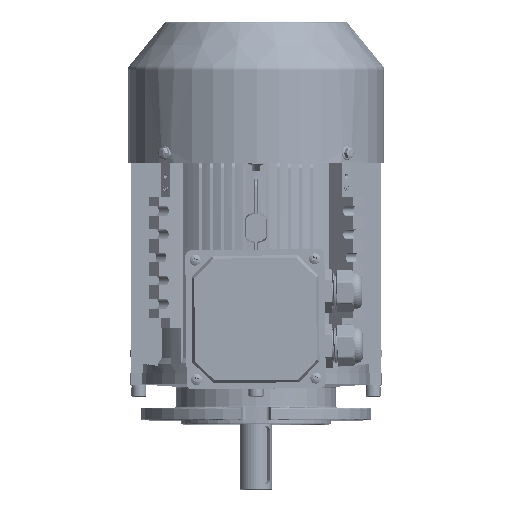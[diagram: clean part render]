
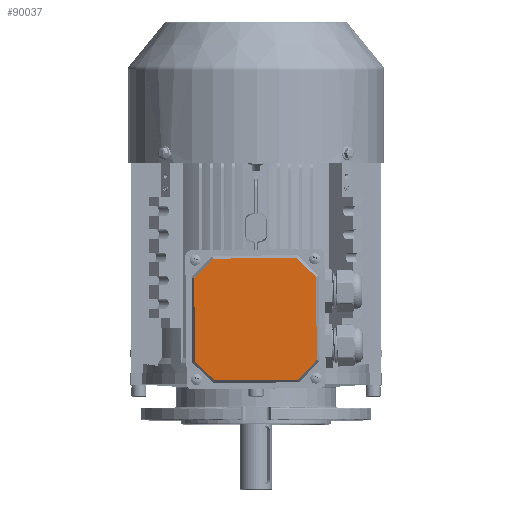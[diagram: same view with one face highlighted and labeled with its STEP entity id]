
A CAD part, top view. The second image highlights one B-rep face of the part: STEP entity #90037.
In plain terms, the highlighted planar face has unit normal (0, 0, 1) as drawn and (0, 0, -1) by its records, which use the part's own axes.
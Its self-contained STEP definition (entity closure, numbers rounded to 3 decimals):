
#714 = VECTOR ( 'NONE', #50435, 1000. ) ;
#1501 = VECTOR ( 'NONE', #7991, 1000. ) ;
#1673 = DIRECTION ( 'NONE',  ( -1., 0., 0. ) ) ;
#3650 = CARTESIAN_POINT ( 'NONE',  ( 0., 0., -4. ) ) ;
#4479 = CARTESIAN_POINT ( 'NONE',  ( -52.536, -35.903, -4. ) ) ;
#7766 = DIRECTION ( 'NONE',  ( 1., 0., 0. ) ) ;
#7991 = DIRECTION ( 'NONE',  ( -0.707, 0.707, 0. ) ) ;
#8569 = VERTEX_POINT ( 'NONE', #57982 ) ;
#9394 = CARTESIAN_POINT ( 'NONE',  ( 52.536, 0., -4. ) ) ;
#11584 = CARTESIAN_POINT ( 'NONE',  ( -52.536, 35.903, -4. ) ) ;
#12261 = DIRECTION ( 'NONE',  ( 1., 0., 0. ) ) ;
#14995 = LINE ( 'NONE', #77813, #57667 ) ;
#19259 = EDGE_CURVE ( 'NONE', #110631, #58912, #32817, .T. ) ;
#21995 = ORIENTED_EDGE ( 'NONE', *, *, #60154, .F. ) ;
#23304 = VECTOR ( 'NONE', #85630, 1000. ) ;
#23455 = LINE ( 'NONE', #84534, #714 ) ;
#25932 = VERTEX_POINT ( 'NONE', #85594 ) ;
#26577 = DIRECTION ( 'NONE',  ( 0.707, 0.707, 0. ) ) ;
#26592 = DIRECTION ( 'NONE',  ( 0., 1., 0. ) ) ;
#28520 = EDGE_CURVE ( 'NONE', #100194, #25932, #44242, .T. ) ;
#28683 = LINE ( 'NONE', #68387, #23304 ) ;
#31680 = VERTEX_POINT ( 'NONE', #4479 ) ;
#31827 = LINE ( 'NONE', #89758, #54490 ) ;
#32817 = LINE ( 'NONE', #58878, #75658 ) ;
#33392 = ORIENTED_EDGE ( 'NONE', *, *, #19259, .F. ) ;
#38172 = DIRECTION ( 'NONE',  ( -0.707, -0.707, 0. ) ) ;
#38913 = EDGE_LOOP ( 'NONE', ( #66157, #61254, #33392, #96141, #43322, #82980, #21995, #67997 ) ) ;
#43322 = ORIENTED_EDGE ( 'NONE', *, *, #99828, .F. ) ;
#44242 = LINE ( 'NONE', #67731, #1501 ) ;
#49012 = VECTOR ( 'NONE', #1673, 1000. ) ;
#50435 = DIRECTION ( 'NONE',  ( 0.707, -0.707, 0. ) ) ;
#52598 = CARTESIAN_POINT ( 'NONE',  ( -35.903, -52.536, -4. ) ) ;
#53188 = CARTESIAN_POINT ( 'NONE',  ( 0., 52.536, -4. ) ) ;
#54490 = VECTOR ( 'NONE', #38172, 1000. ) ;
#57667 = VECTOR ( 'NONE', #26577, 1000. ) ;
#57982 = CARTESIAN_POINT ( 'NONE',  ( -35.903, 52.536, -4. ) ) ;
#58021 = LINE ( 'NONE', #9394, #86194 ) ;
#58878 = CARTESIAN_POINT ( 'NONE',  ( 0., -52.536, -4. ) ) ;
#58912 = VERTEX_POINT ( 'NONE', #71222 ) ;
#60154 = EDGE_CURVE ( 'NONE', #25932, #8569, #94526, .T. ) ;
#61254 = ORIENTED_EDGE ( 'NONE', *, *, #77112, .F. ) ;
#62092 = EDGE_CURVE ( 'NONE', #31680, #110631, #23455, .T. ) ;
#62526 = FACE_OUTER_BOUND ( 'NONE', #38913, .T. ) ;
#63407 = DIRECTION ( 'NONE',  ( 0., 0., 1. ) ) ;
#66157 = ORIENTED_EDGE ( 'NONE', *, *, #92744, .F. ) ;
#67731 = CARTESIAN_POINT ( 'NONE',  ( 44.22, 44.22, -4. ) ) ;
#67997 = ORIENTED_EDGE ( 'NONE', *, *, #28520, .F. ) ;
#68387 = CARTESIAN_POINT ( 'NONE',  ( -52.536, 0., -4. ) ) ;
#70333 = CARTESIAN_POINT ( 'NONE',  ( 52.536, -35.903, -4. ) ) ;
#71222 = CARTESIAN_POINT ( 'NONE',  ( 35.903, -52.536, -4. ) ) ;
#73750 = VERTEX_POINT ( 'NONE', #70333 ) ;
#75658 = VECTOR ( 'NONE', #7766, 1000. ) ;
#77112 = EDGE_CURVE ( 'NONE', #58912, #73750, #14995, .T. ) ;
#77813 = CARTESIAN_POINT ( 'NONE',  ( 44.22, -44.22, -4. ) ) ;
#82980 = ORIENTED_EDGE ( 'NONE', *, *, #85777, .F. ) ;
#84534 = CARTESIAN_POINT ( 'NONE',  ( -44.22, -44.22, -4. ) ) ;
#85594 = CARTESIAN_POINT ( 'NONE',  ( 35.903, 52.536, -4. ) ) ;
#85630 = DIRECTION ( 'NONE',  ( 0., -1., 0. ) ) ;
#85777 = EDGE_CURVE ( 'NONE', #8569, #96198, #31827, .T. ) ;
#86194 = VECTOR ( 'NONE', #26592, 1000. ) ;
#89758 = CARTESIAN_POINT ( 'NONE',  ( -44.22, 44.22, -4. ) ) ;
#90037 = ADVANCED_FACE ( 'NONE', ( #62526 ), #97475, .F. ) ;
#92744 = EDGE_CURVE ( 'NONE', #73750, #100194, #58021, .T. ) ;
#94356 = CARTESIAN_POINT ( 'NONE',  ( 52.536, 35.903, -4. ) ) ;
#94526 = LINE ( 'NONE', #53188, #49012 ) ;
#96141 = ORIENTED_EDGE ( 'NONE', *, *, #62092, .F. ) ;
#96198 = VERTEX_POINT ( 'NONE', #11584 ) ;
#97475 = PLANE ( 'NONE',  #102229 ) ;
#99828 = EDGE_CURVE ( 'NONE', #96198, #31680, #28683, .T. ) ;
#100194 = VERTEX_POINT ( 'NONE', #94356 ) ;
#102229 = AXIS2_PLACEMENT_3D ( 'NONE', #3650, #63407, #12261 ) ;
#110631 = VERTEX_POINT ( 'NONE', #52598 ) ;
